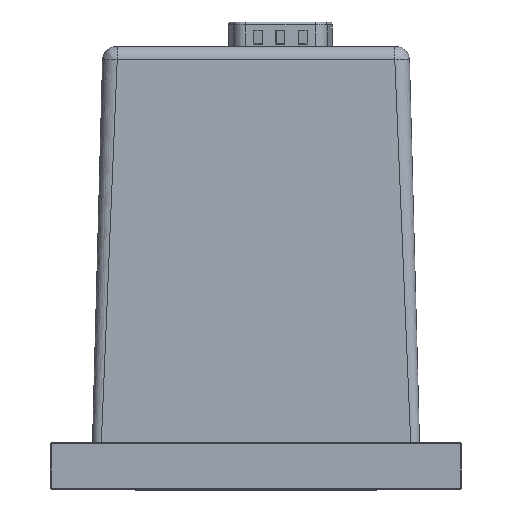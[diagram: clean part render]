
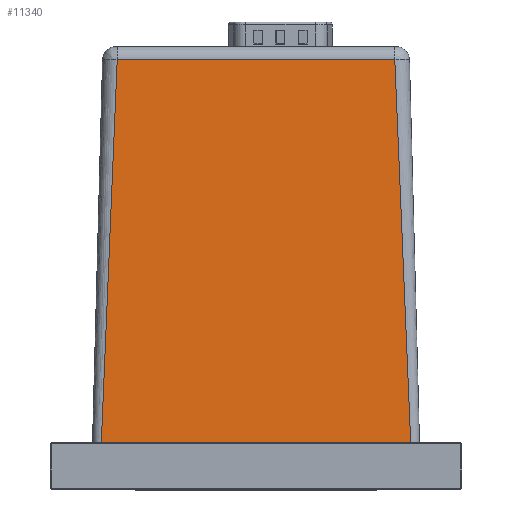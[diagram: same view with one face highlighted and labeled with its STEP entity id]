
A CAD part, top view. The second image highlights one B-rep face of the part: STEP entity #11340.
In plain terms, the highlighted planar face has unit normal (0, 0.026, 1).
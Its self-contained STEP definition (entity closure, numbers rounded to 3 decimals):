
#1781 = EDGE_CURVE ( 'NONE', #28540, #31225, #10188, .T. ) ;
#6526 = ORIENTED_EDGE ( 'NONE', *, *, #1781, .T. ) ;
#6746 = LINE ( 'NONE', #15266, #24854 ) ;
#7223 = CARTESIAN_POINT ( 'NONE',  ( -23.597, 73.158, 10.794 ) ) ;
#8147 = DIRECTION ( 'NONE',  ( 0., 0.026, 1. ) ) ;
#8631 = DIRECTION ( 'NONE',  ( -1., 0., 0. ) ) ;
#8738 = CARTESIAN_POINT ( 'NONE',  ( -25.73, 29.728, 11.931 ) ) ;
#9586 = EDGE_CURVE ( 'NONE', #31225, #30682, #6746, .T. ) ;
#10188 = B_SPLINE_CURVE_WITH_KNOTS ( 'NONE', 3,
 ( #41250, #33972, #8738, #19668 ),
 .UNSPECIFIED., .F., .F.,
 ( 4, 4 ),
 ( 0.406, 0.6 ),
 .UNSPECIFIED. ) ;
#11340 = ADVANCED_FACE ( 'NONE', ( #38262 ), #25510, .T. ) ;
#11614 = DIRECTION ( 'NONE',  ( 1., 0., 0. ) ) ;
#12573 = ORIENTED_EDGE ( 'NONE', *, *, #23936, .T. ) ;
#15266 = CARTESIAN_POINT ( 'NONE',  ( 26.3, 8., 12.5 ) ) ;
#15839 = VERTEX_POINT ( 'NONE', #26844 ) ;
#16390 = ORIENTED_EDGE ( 'NONE', *, *, #9586, .T. ) ;
#19302 = CARTESIAN_POINT ( 'NONE',  ( 26.301, 8., 12.5 ) ) ;
#19668 = CARTESIAN_POINT ( 'NONE',  ( -26.301, 8., 12.5 ) ) ;
#22291 = CARTESIAN_POINT ( 'NONE',  ( 23.597, 73.158, 10.794 ) ) ;
#23095 = EDGE_CURVE ( 'NONE', #15839, #28540, #42953, .T. ) ;
#23936 = EDGE_CURVE ( 'NONE', #30682, #15839, #43149, .T. ) ;
#24854 = VECTOR ( 'NONE', #11614, 1000. ) ;
#25510 = PLANE ( 'NONE',  #33863 ) ;
#25592 = CARTESIAN_POINT ( 'NONE',  ( 26.301, 8., 12.5 ) ) ;
#26844 = CARTESIAN_POINT ( 'NONE',  ( 23.597, 73.158, 10.794 ) ) ;
#27515 = EDGE_LOOP ( 'NONE', ( #12573, #30266, #6526, #16390 ) ) ;
#28540 = VERTEX_POINT ( 'NONE', #7223 ) ;
#29125 = CARTESIAN_POINT ( 'NONE',  ( 26.3, 8., 12.5 ) ) ;
#30068 = CARTESIAN_POINT ( 'NONE',  ( -26.301, 8., 12.5 ) ) ;
#30266 = ORIENTED_EDGE ( 'NONE', *, *, #23095, .T. ) ;
#30682 = VERTEX_POINT ( 'NONE', #19302 ) ;
#31225 = VERTEX_POINT ( 'NONE', #30068 ) ;
#33354 = VECTOR ( 'NONE', #8631, 1000. ) ;
#33380 = DIRECTION ( 'NONE',  ( 0., 1., -0.026 ) ) ;
#33857 = CARTESIAN_POINT ( 'NONE',  ( 26.3, 73.158, 10.794 ) ) ;
#33863 = AXIS2_PLACEMENT_3D ( 'NONE', #29125, #8147, #33380 ) ;
#33972 = CARTESIAN_POINT ( 'NONE',  ( -24.224, 51.431, 11.363 ) ) ;
#36607 = CARTESIAN_POINT ( 'NONE',  ( 25.73, 29.728, 11.931 ) ) ;
#38262 = FACE_OUTER_BOUND ( 'NONE', #27515, .T. ) ;
#41250 = CARTESIAN_POINT ( 'NONE',  ( -23.597, 73.158, 10.794 ) ) ;
#42953 = LINE ( 'NONE', #33857, #33354 ) ;
#43149 = B_SPLINE_CURVE_WITH_KNOTS ( 'NONE', 3,
 ( #25592, #36607, #43849, #22291 ),
 .UNSPECIFIED., .F., .F.,
 ( 4, 4 ),
 ( 0.4, 0.594 ),
 .UNSPECIFIED. ) ;
#43849 = CARTESIAN_POINT ( 'NONE',  ( 24.224, 51.431, 11.363 ) ) ;
